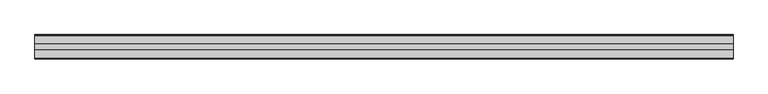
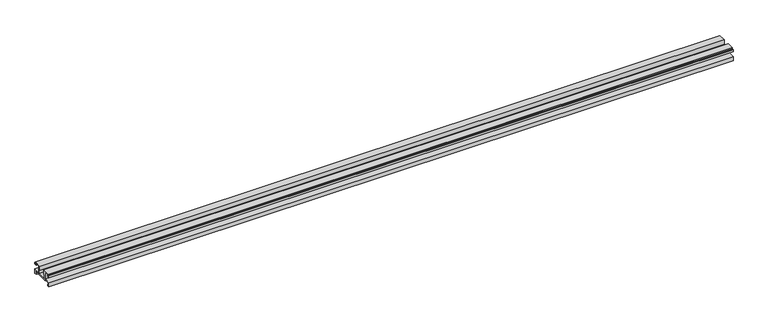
"""IFC4 building model written with IfcOpenShell, lengths in millimetres: proxy geometry, Weiku - Montante - Acoplamento vidro : Weiku - Montante - Acoplamento vidro."""

from ifc_helpers import new_model, si_unit, frame, origin, place, context, project, spatial, polyline, outline, extrude, source, transform, mapped, element, save


def generic_models_22db67ac(model_context):
    return source(origin(), model_context, "Body", "SweptSolid", [
        extrude(outline(polyline([(-35.405, 5.1494), (-35.405, 6.8004), (-45.741, 6.8004), (-45.741, 2.6094), (-43.8784, 2.6094), (-43.8784, 0.0), (-47.9014508, 0.0), (-47.9014508, 8.79), (-34.946, 8.79), (-34.946, 23.3104), (-43.5397, 23.3104), (-43.5397, 19.204), (-47.9, 19.204), (-47.9, 22.8024), (-46.9264, 22.8024), (-46.9264, 20.3894), (-44.725, 20.3894), (-44.725, 23.9454), (-45.5264504, 23.9454), (-45.5264504, 25.3), (-30.4164, 25.3), (-30.4164, 16.283), (-32.4484, 16.283), (-32.4484, 8.8), (-15.4516, 8.8), (-15.4516, 16.283), (-17.4836, 16.283), (-17.4836, 25.3), (-2.3735496, 25.3), (-2.3735496, 23.9454), (-3.175, 23.9454), (-3.175, 20.3894), (-0.9736, 20.3894), (-0.9736, 22.8024), (0.0, 22.8024), (0.0, 19.204), (-4.3603, 19.204), (-4.3603, 23.3104), (-12.954, 23.3104), (-12.954, 8.79), (0.0014508, 8.79), (0.0014508, 0.0), (-4.0216, 0.0), (-4.0216, 2.6094), (-2.159, 2.6094), (-2.159, 6.8004), (-12.495, 6.8004), (-12.495, 5.1494), (-35.405, 5.1494)])), frame((-682.8166667, 0.0, 0.0), z_axis=(1.0, 0.0, 0.0), x_axis=(0.0, 1.0, 0.0)), (0.0, 0.0, 1.0), 1365.6333333),
    ])


if __name__ == "__main__":
    model = new_model("IFC4")
    model_context = context("Model", 3, world=origin())
    ifc_project = project(units=[si_unit("LENGTHUNIT", "METRE", prefix="MILLI")], contexts=[model_context])
    site = spatial("IfcSite", under=ifc_project)
    building = spatial("IfcBuilding", under=site)
    placement = place(None, origin())
    generic_models_shape = generic_models_22db67ac(model_context)
    element("IfcBuildingElementProxy", 1, Name="Weiku - Montante - Acoplamento vidro : Weiku - Montante - Acoplamento vidro", ObjectType="Weiku - Montante - Acoplamento vidro : Weiku - Montante - Acoplamento vidro", at=placement, inside=building, context=model_context, shape_type="MappedRepresentation", body=[
        mapped(generic_models_shape, transform((0.0, 0.0, 0.0), x_axis=(1.0, 0.0, 0.0), y_axis=(0.0, 1.0, 0.0), z_axis=(0.0, 0.0, 1.0))),
    ])
    save(model, "model.ifc")
